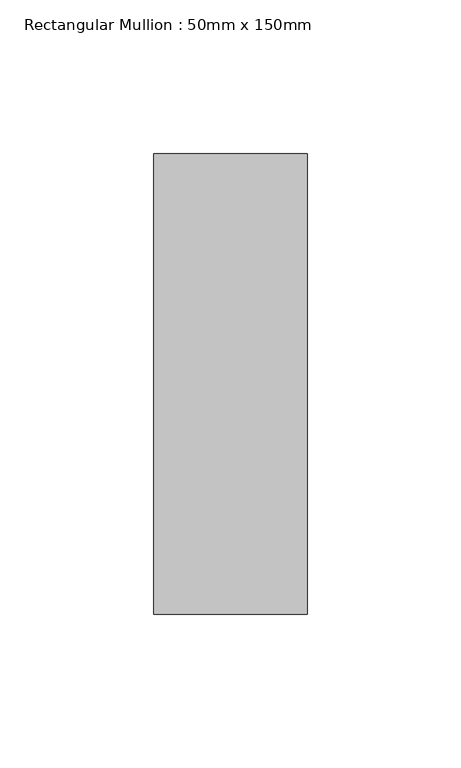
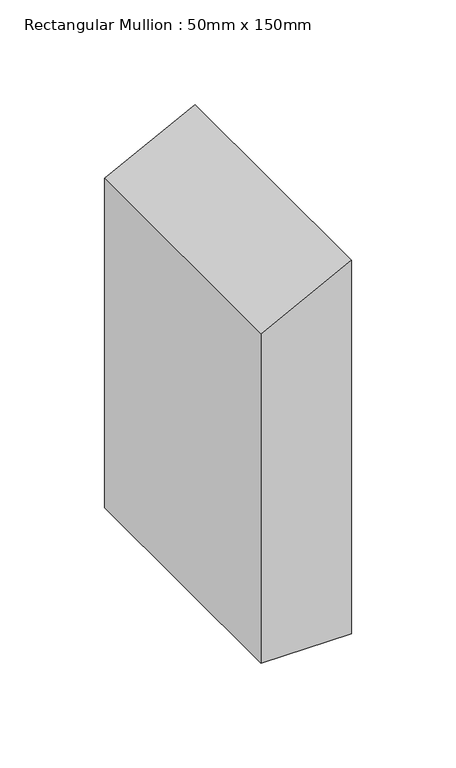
"""IFC4 building model written with IfcOpenShell, lengths in millimetres: member geometry, Rectangular Mullion : 50mm x 150mm."""

from ifc_helpers import new_model, si_unit, frame, origin, place, context, project, spatial, polyline, outline, extrude, source, transform, mapped, element, save


def rectangular_mullion_50mm_x_150mm_a958f880(model_context):
    return source(origin(), model_context, "Body", "SweptSolid", [
        extrude(outline(polyline([(0.0, 0.0), (-25.6691077, -50.0), (-217.9584148, -50.0), (-217.9584148, 0.0), (0.0, 0.0)])), frame((0.0, -75.0, 0.0), z_axis=(0.0, 1.0, 0.0), x_axis=(0.0, 0.0, 1.0)), (0.0, 0.0, 1.0), 150.0),
    ])


if __name__ == "__main__":
    model = new_model("IFC4")
    model_context = context("Model", 3, world=origin())
    ifc_project = project(units=[si_unit("LENGTHUNIT", "METRE", prefix="MILLI")], contexts=[model_context])
    site = spatial("IfcSite", under=ifc_project)
    building = spatial("IfcBuilding", under=site)
    placement = place(None, origin())
    rectangular_mullion_50mm_x_150mm_shape = rectangular_mullion_50mm_x_150mm_a958f880(model_context)
    element("IfcMember", 1, ObjectType="Rectangular Mullion : 50mm x 150mm", at=placement, inside=building, context=model_context, shape_type="MappedRepresentation", body=[
        mapped(rectangular_mullion_50mm_x_150mm_shape, transform((0.0, 0.0, 0.0), x_axis=(1.0, 0.0, 0.0), y_axis=(0.0, 1.0, 0.0), z_axis=(0.0, 0.0, 1.0))),
    ])
    save(model, "model.ifc")
